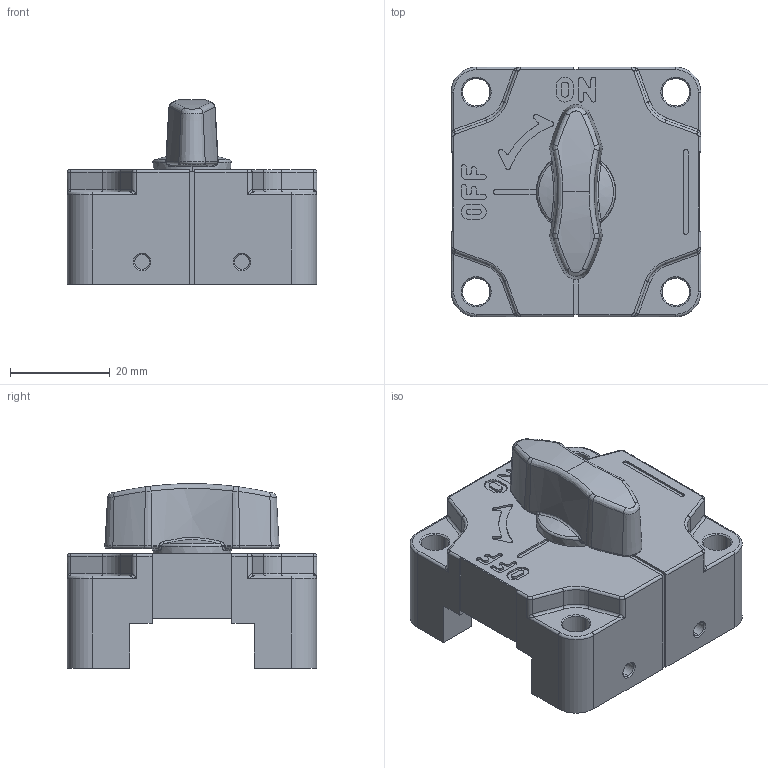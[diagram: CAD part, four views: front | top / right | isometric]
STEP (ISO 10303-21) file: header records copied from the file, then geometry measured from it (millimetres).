
FILE_DESCRIPTION (( 'STEP AP203' ), '1' );
FILE_NAME ('qcsq2509-bk.STEP', '2021-10-21T08:24:30', ( '' ), ( '' ), 'SwSTEP 2.0', 'SolidWorks 2020', '' );
FILE_SCHEMA (( 'CONFIG_CONTROL_DESIGN' ));
Length unit declared in the file: millimetre
Products named in the file (3): qcsq2509-bk_02; qcsq2509-bk_01; qcsq2509-bk
Assembly tree (2 placements, depth 2):
  qcsq2509-bk
    qcsq2509-bk_01
    qcsq2509-bk_02
Bounding box: 50 x 50 x 37 mm (x, y, z)
Volume: 41273.1 mm3; surface area: 13482.8 mm2
Topology: 2 solids, 6 shells, 371 faces, 920 edges, 565 vertices
Faces by surface type: cylinder 127, plane 119, torus 44, bspline 42, cone 39
Entity records: 12354 total; most frequent: CARTESIAN_POINT 3365, DIRECTION 1861, ORIENTED_EDGE 1824, EDGE_CURVE 912, AXIS2_PLACEMENT_3D 717, VERTEX_POINT 565, VECTOR 427, LINE 427
